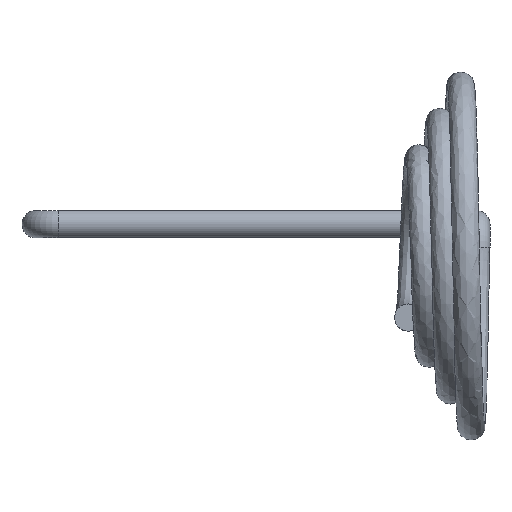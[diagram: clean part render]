
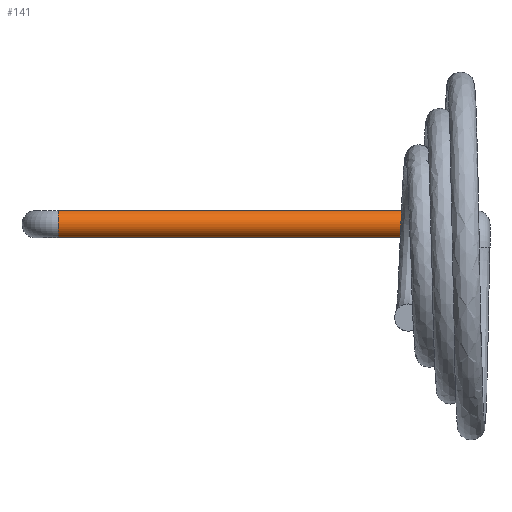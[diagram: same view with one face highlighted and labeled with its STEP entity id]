
A CAD part, left-side view. The second image highlights one B-rep face of the part: STEP entity #141.
In plain terms, the highlighted cylindrical face has radius 0.3 mm (diameter 0.6 mm), a full revolution.
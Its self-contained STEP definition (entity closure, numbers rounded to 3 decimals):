
#25=FACE_OUTER_BOUND('',#34,.T.);
#34=EDGE_LOOP('',(#104,#105,#106,#107,#108));
#41=LINE('',#252,#44);
#44=VECTOR('',#204,0.3);
#49=CIRCLE('',#167,0.3);
#50=CIRCLE('',#169,0.3);
#51=CIRCLE('',#170,0.3);
#64=VERTEX_POINT('',#247);
#65=VERTEX_POINT('',#251);
#66=VERTEX_POINT('',#253);
#79=EDGE_CURVE('',#64,#64,#49,.T.);
#80=EDGE_CURVE('',#64,#65,#41,.T.);
#81=EDGE_CURVE('',#65,#66,#50,.T.);
#82=EDGE_CURVE('',#66,#65,#51,.T.);
#104=ORIENTED_EDGE('',*,*,#79,.F.);
#105=ORIENTED_EDGE('',*,*,#80,.T.);
#106=ORIENTED_EDGE('',*,*,#81,.T.);
#107=ORIENTED_EDGE('',*,*,#82,.T.);
#108=ORIENTED_EDGE('',*,*,#80,.F.);
#136=CYLINDRICAL_SURFACE('',#168,0.3);
#141=ADVANCED_FACE('',(#25),#136,.T.);
#167=AXIS2_PLACEMENT_3D('',#249,#200,#201);
#168=AXIS2_PLACEMENT_3D('',#250,#202,#203);
#169=AXIS2_PLACEMENT_3D('',#254,#205,#206);
#170=AXIS2_PLACEMENT_3D('',#255,#207,#208);
#200=DIRECTION('center_axis',(0.,1.,0.));
#201=DIRECTION('ref_axis',(-1.,0.,0.));
#202=DIRECTION('center_axis',(0.,1.,0.));
#203=DIRECTION('ref_axis',(-1.,0.,0.));
#204=DIRECTION('',(0.,-1.,0.));
#205=DIRECTION('center_axis',(0.,1.,0.));
#206=DIRECTION('ref_axis',(-1.,0.,0.));
#207=DIRECTION('center_axis',(0.,1.,0.));
#208=DIRECTION('ref_axis',(-1.,0.,0.));
#247=CARTESIAN_POINT('',(14.15,9.2,0.5));
#249=CARTESIAN_POINT('Origin',(13.85,9.2,0.5));
#250=CARTESIAN_POINT('Origin',(13.85,0.5,0.5));
#251=CARTESIAN_POINT('',(14.15,0.5,0.5));
#252=CARTESIAN_POINT('',(14.15,0.5,0.5));
#253=CARTESIAN_POINT('',(13.55,0.5,0.5));
#254=CARTESIAN_POINT('Origin',(13.85,0.5,0.5));
#255=CARTESIAN_POINT('Origin',(13.85,0.5,0.5));
